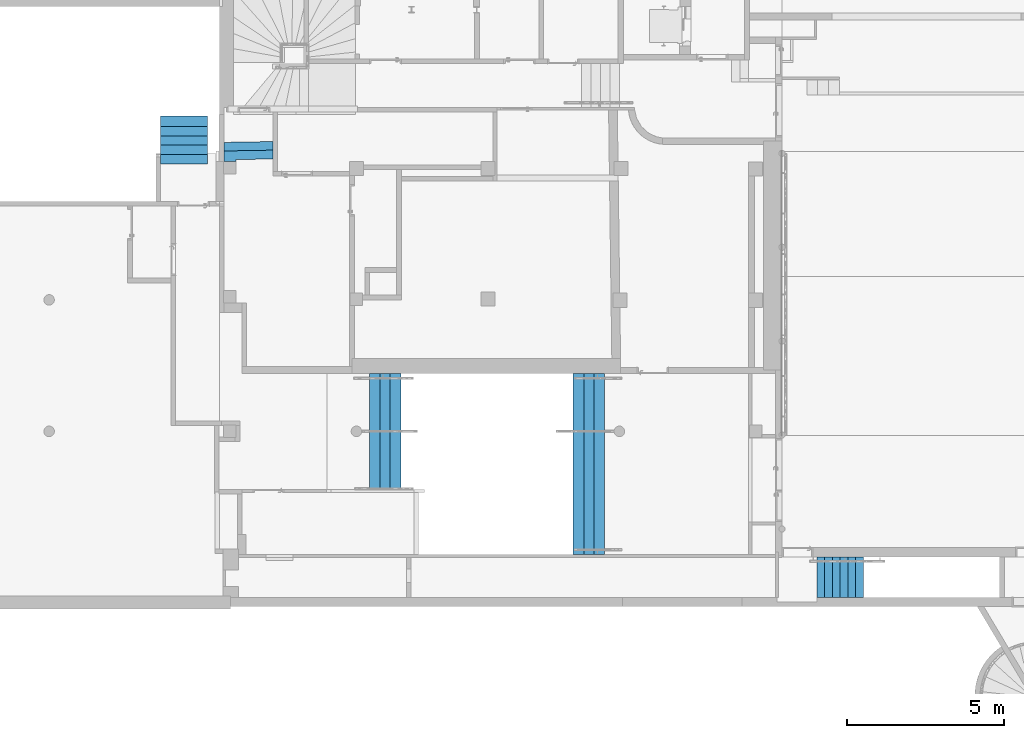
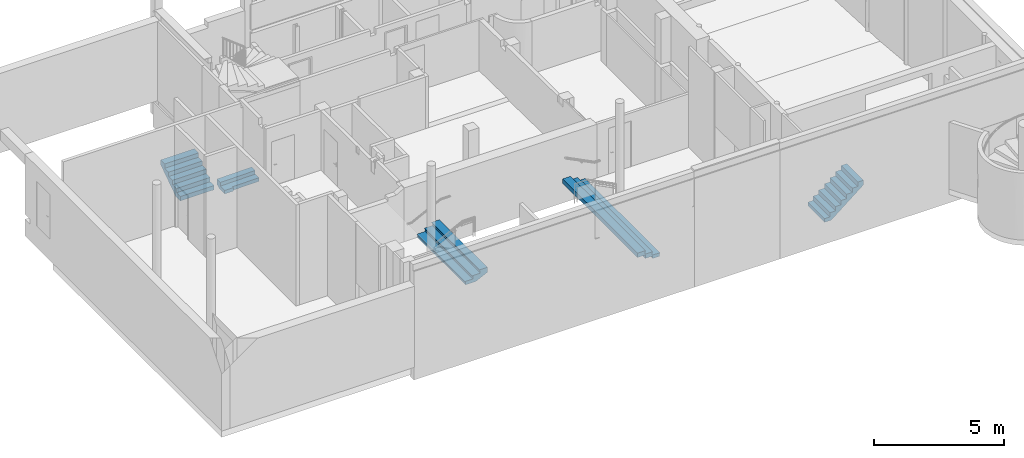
# One storey, part 33 of 39: 3 stair flights, 2 stairs, 3 elements without a shape of their own.
"""IFC4 building model written with IfcOpenShell, lengths in metres."""

from ifc_helpers import new_model, entity, si_unit, converted_unit, derived_unit, direction, frame, origin, place, context, subcontext, project, spatial, polygons, material, constituent, constituent_set, type_object, element, aggregate, save


model = new_model("IFC4")

# Units and contexts
model_context = context("Model", 3, precision=1e-05, world=origin(), true_north=direction((6.12303176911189e-17, 1.0)))
body_context = subcontext(model_context, "Body", "Model", "MODEL_VIEW")
ifc_project = project(units=[si_unit("LENGTHUNIT", "METRE"), si_unit("AREAUNIT", "SQUARE_METRE"), si_unit("VOLUMEUNIT", "CUBIC_METRE"), converted_unit("PLANEANGLEUNIT", "DEGREE", entity("IfcRatioMeasure", 0.0174532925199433), si_unit("PLANEANGLEUNIT", "RADIAN"), dimensions=[0, 0, 0, 0, 0, 0, 0]), si_unit("MASSUNIT", "GRAM", prefix="KILO"), derived_unit("MASSDENSITYUNIT", [(si_unit("MASSUNIT", "GRAM", prefix="KILO"), 1), (si_unit("LENGTHUNIT", "METRE"), -3)]), derived_unit("MOMENTOFINERTIAUNIT", [(si_unit("LENGTHUNIT", "METRE"), 4)]), si_unit("TIMEUNIT", "SECOND"), si_unit("FREQUENCYUNIT", "HERTZ"), si_unit("THERMODYNAMICTEMPERATUREUNIT", "DEGREE_CELSIUS"), derived_unit("THERMALTRANSMITTANCEUNIT", [(si_unit("MASSUNIT", "GRAM", prefix="KILO"), 1), (si_unit("THERMODYNAMICTEMPERATUREUNIT", "KELVIN"), -1), (si_unit("TIMEUNIT", "SECOND"), -3)]), derived_unit("VOLUMETRICFLOWRATEUNIT", [(si_unit("LENGTHUNIT", "METRE"), 3), (si_unit("TIMEUNIT", "SECOND"), -1)]), si_unit("ELECTRICCURRENTUNIT", "AMPERE"), si_unit("ELECTRICVOLTAGEUNIT", "VOLT"), si_unit("POWERUNIT", "WATT"), si_unit("FORCEUNIT", "NEWTON", prefix="KILO"), si_unit("ILLUMINANCEUNIT", "LUX"), si_unit("LUMINOUSFLUXUNIT", "LUMEN"), si_unit("LUMINOUSINTENSITYUNIT", "CANDELA"), derived_unit("USERDEFINED", [(si_unit("MASSUNIT", "GRAM", prefix="KILO"), -1), (si_unit("LENGTHUNIT", "METRE"), -2), (si_unit("TIMEUNIT", "SECOND"), 3), (si_unit("LUMINOUSFLUXUNIT", "LUMEN"), 1)]), derived_unit("LINEARVELOCITYUNIT", [(si_unit("LENGTHUNIT", "METRE"), 1), (si_unit("TIMEUNIT", "SECOND"), -1)]), si_unit("PRESSUREUNIT", "PASCAL"), derived_unit("USERDEFINED", [(si_unit("LENGTHUNIT", "METRE"), -2), (si_unit("MASSUNIT", "GRAM", prefix="KILO"), 1), (si_unit("TIMEUNIT", "SECOND"), -2)]), derived_unit("LINEARFORCEUNIT", [(si_unit("MASSUNIT", "GRAM", prefix="KILO"), 1), (si_unit("LENGTHUNIT", "METRE"), 1), (si_unit("TIMEUNIT", "SECOND"), -2), (si_unit("LENGTHUNIT", "METRE"), -1)]), derived_unit("PLANARFORCEUNIT", [(si_unit("MASSUNIT", "GRAM", prefix="KILO"), 1), (si_unit("LENGTHUNIT", "METRE"), 1), (si_unit("TIMEUNIT", "SECOND"), -2), (si_unit("LENGTHUNIT", "METRE"), -2)])], contexts=[model_context])

# Site, building, storey
site_placement = place(None, origin())
site = spatial("IfcSite", under=ifc_project, at=site_placement, Name="Default", CompositionType="ELEMENT")
building_placement = place(site_placement, origin())
building = spatial("IfcBuilding", under=site, at=building_placement, Name="HOTEL CONSULAIRE BOULOGNE SUR MER", CompositionType="ELEMENT")
storey_placement = place(building_placement, frame((0.0, 0.0, -5.02343668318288)))
storey = spatial("IfcBuildingStorey", under=building, at=storey_placement, Name="SS3", CompositionType="ELEMENT", Elevation=-5.02343668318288)

# Stair
stair_type_1 = type_object("IfcStairType", Name="Escalier coulé sur place:Monobloc 5", PredefinedType="STRAIGHT_RUN_STAIR")
stair_1_placement = place(storey_placement, frame((-7.48498856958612, -15.4746964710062, 0.0)))
element("IfcStair", 1, at=stair_1_placement, inside=storey, type_object=stair_type_1, Name="Escalier coulé sur place:Escalier", ObjectType="Escalier coulé sur place:Monobloc 5", PredefinedType="STRAIGHT_RUN_STAIR", context=body_context, shape_type="Tessellation", body=[
    polygons([(0.0, 0.300000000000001, 0.202681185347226), (0.0, 2.16573425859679e-15, 0.202681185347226), (1.50257659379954, 0.0, 0.202681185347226), (1.50257659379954, 0.299999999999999, 0.202681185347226), (0.0, 0.300000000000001, 0.0), (0.0, 2.16573425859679e-15, 0.0), (1.50257659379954, -2.16573425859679e-15, 0.0), (1.50257659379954, 0.299999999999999, 0.0), (0.0, 0.357259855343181, 0.0), (1.50257659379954, 0.357259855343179, 0.0), (1.08286712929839e-15, 0.599999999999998, 0.16399620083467), (0.0, 0.899999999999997, 0.366677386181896), (2.16573425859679e-15, 1.2, 0.569358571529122), (2.16573425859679e-15, 1.52549432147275, 0.78926382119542), (1.50257659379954, 1.52549432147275, 0.789263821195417), (1.50257659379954, 1.2, 0.569358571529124), (1.50257659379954, 0.899999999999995, 0.366677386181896), (1.50257659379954, 0.599999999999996, 0.16399620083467), (0.0, 0.6, 0.405362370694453), (0.0, 0.300000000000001, 0.405362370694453), (1.50257659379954, 0.299999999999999, 0.405362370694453), (1.50257659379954, 0.6, 0.405362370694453), (1.08286712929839e-15, 0.900000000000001, 0.608043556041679), (1.08286712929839e-15, 0.600000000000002, 0.608043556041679), (1.50257659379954, 0.6, 0.608043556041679), (1.50257659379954, 0.899999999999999, 0.608043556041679), (1.08286712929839e-15, 1.2, 0.810724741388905), (1.08286712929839e-15, 0.900000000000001, 0.810724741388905), (1.50257659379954, 0.899999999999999, 0.810724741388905), (1.50257659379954, 1.2, 0.810724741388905), (2.16573425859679e-15, 1.52549432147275, 1.01340592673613), (2.16573425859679e-15, 1.2, 1.01340592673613), (1.50257659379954, 1.2, 1.01340592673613), (1.50257659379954, 1.52549432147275, 1.01340592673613)], [[[4, 1, 2, 3]], [[22, 19, 20, 21]], [[26, 23, 24, 25]], [[30, 27, 28, 29]], [[34, 31, 32, 33]], [[2, 1, 20, 19, 24, 23, 28, 27, 32, 31, 14, 13, 12, 11, 9, 5, 6]], [[3, 2, 6, 7]], [[21, 20, 1, 4]], [[25, 24, 19, 22]], [[29, 28, 23, 26]], [[33, 32, 27, 30]], [[4, 3, 7, 8, 10, 18, 17, 16, 15, 34, 33, 30, 29, 26, 25, 22, 21]], [[5, 9, 10, 8, 7, 6]], [[13, 14, 15, 16, 17, 18, 10, 9, 11, 12]], [[31, 34, 15, 14]]], closed=True),
])

# Stair, stair flight
stair_type_2 = type_object("IfcStairType", PredefinedType="STRAIGHT_RUN_STAIR")
stair_2_placement = place(storey_placement, origin())
stair_2 = element("IfcStair", 2, at=stair_2_placement, inside=storey, type_object=stair_type_2, Name="Escalier coulé sur place:Escalier", PredefinedType="STRAIGHT_RUN_STAIR")
ifc_material_1 = material(Name="carrelage 30x30")
ifc_constituent_1 = constituent(ifc_material_1, Name="carrelage 30x30", Category="Matériaux")
ifc_material_2 = material(Name="Maçonnerie - Béton", Category="Béton")
ifc_constituent_2 = constituent(ifc_material_2, Name="Maçonnerie - Béton", Category="Matériaux")
ifc_constituent_set_1 = constituent_set(constituents=[ifc_constituent_1, ifc_constituent_2], Name="MaterialConstituentSet")
stair_flight_type_1 = type_object("IfcStairFlightType", Name="Volée monobloc:Profondeur de structure 180", PredefinedType="NOTDEFINED")
stair_flight_1_placement = place(stair_2_placement, frame((5.69117677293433, -27.9462737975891, 0.0)))
stair_flight_1 = element("IfcStairFlight", 3, at=stair_flight_1_placement, type_object=stair_flight_type_1, material=ifc_constituent_set_1, Name="Escalier coulé sur place:Escalier:446541 Run 1", ObjectType="Volée monobloc:Profondeur de structure 180", PredefinedType="NOTDEFINED", context=body_context, shape_type="Tessellation", body=[
    polygons([(0.643000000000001, 4.33146851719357e-15, 0.163351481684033), (1.0, 0.0, 0.163351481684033), (1.00000000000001, 5.77705474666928, 0.163351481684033), (0.643000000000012, 5.77705474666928, 0.163351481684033), (0.643000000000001, 0.0, 0.133351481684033), (0.643000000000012, 5.77705474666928, 0.133351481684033), (1.00000000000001, 5.77705474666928, 0.133351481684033), (1.0, 0.0, 0.133351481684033)], [[[4, 1, 2, 3]], [[7, 8, 5, 6]], [[2, 1, 5, 8]], [[3, 2, 8, 7]], [[4, 3, 7, 6]], [[1, 4, 6, 5]]], closed=True),
    polygons([(0.324000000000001, 4.33146851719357e-15, 0.326702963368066), (0.673000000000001, 4.33146851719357e-15, 0.326702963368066), (0.673000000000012, 5.77705474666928, 0.326702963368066), (0.324000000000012, 5.77705474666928, 0.326702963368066), (0.324000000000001, 4.33146851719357e-15, 0.296702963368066), (0.324000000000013, 5.77705474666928, 0.296702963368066), (0.673000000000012, 5.77705474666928, 0.296702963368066), (0.673000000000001, 4.33146851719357e-15, 0.296702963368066)], [[[4, 1, 2, 3]], [[7, 8, 5, 6]], [[2, 1, 5, 8]], [[4, 3, 7, 6]], [[1, 4, 6, 5]], [[3, 2, 8, 7]]], closed=True),
    polygons([(1.08286712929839e-15, 4.33146851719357e-15, 0.490054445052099), (0.354000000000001, 4.33146851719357e-15, 0.490054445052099), (0.354000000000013, 5.77705474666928, 0.490054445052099), (9.74580416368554e-15, 5.77705474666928, 0.490054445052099), (1.08286712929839e-15, 4.33146851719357e-15, 0.460054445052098), (1.08286712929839e-14, 5.77705474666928, 0.460054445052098), (0.354000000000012, 5.77705474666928, 0.460054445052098), (0.354000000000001, 4.33146851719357e-15, 0.460054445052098)], [[[4, 1, 2, 3]], [[7, 8, 5, 6]], [[2, 1, 5, 8]], [[4, 3, 7, 6]], [[1, 4, 6, 5]], [[3, 2, 8, 7]]], closed=True),
    polygons([(0.970000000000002, 0.0, 0.133351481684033), (0.970000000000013, 5.77705474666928, 0.133351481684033), (0.673000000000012, 5.77705474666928, 0.133351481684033), (0.643000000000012, 5.77705474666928, 0.133351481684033), (0.643000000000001, 4.33146851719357e-15, 0.133351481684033), (0.673000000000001, 4.33146851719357e-15, 0.133351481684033), (0.970000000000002, 4.33146851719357e-15, 0.0), (0.643000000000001, 4.33146851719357e-15, 0.116702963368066), (0.673000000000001, 4.33146851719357e-15, 0.116702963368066), (0.673000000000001, 4.33146851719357e-15, 0.0), (0.970000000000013, 5.77705474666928, 0.0), (0.673000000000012, 5.77705474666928, 0.0), (0.673000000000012, 5.77705474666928, 0.116702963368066), (0.643000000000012, 5.77705474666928, 0.116702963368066), (0.643000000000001, 4.33146851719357e-15, 0.296702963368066), (0.643000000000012, 5.77705474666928, 0.296702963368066), (0.354000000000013, 5.77705474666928, 0.296702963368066), (0.324000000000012, 5.77705474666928, 0.296702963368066), (0.324000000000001, 4.33146851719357e-15, 0.296702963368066), (0.354000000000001, 4.33146851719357e-15, 0.296702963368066), (0.324000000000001, 4.33146851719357e-15, 0.280054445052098), (0.354000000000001, 4.33146851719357e-15, 0.280054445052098), (0.354000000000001, 4.33146851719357e-15, 0.116702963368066), (0.354000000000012, 5.77705474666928, 0.116702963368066), (0.354000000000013, 5.77705474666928, 0.280054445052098), (0.324000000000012, 5.77705474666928, 0.280054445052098), (1.08286712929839e-15, 4.33146851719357e-15, 0.460054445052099), (0.324000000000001, 4.33146851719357e-15, 0.460054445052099), (0.324000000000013, 5.77705474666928, 0.460054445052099), (9.74580416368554e-15, 5.77705474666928, 0.460054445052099), (1.08286712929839e-15, 4.33146851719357e-15, 0.280054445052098), (9.74580416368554e-15, 5.77705474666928, 0.280054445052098)], [[[4, 5, 6, 1, 2, 3]], [[17, 18, 19, 20, 15, 16]], [[30, 27, 28, 29]], [[6, 5, 15, 20, 19, 28, 27, 31, 21, 22, 23, 8, 9, 10, 7, 1]], [[2, 1, 7, 11]], [[16, 15, 5, 4]], [[29, 28, 19, 18]], [[3, 2, 11, 12, 13, 14, 24, 25, 26, 32, 30, 29, 18, 17, 16, 4]], [[27, 30, 32, 31]], [[9, 13, 12, 10]], [[22, 25, 24, 23]], [[10, 12, 11, 7]], [[14, 13, 9, 8, 23, 24]], [[26, 25, 22, 21, 31, 32]]], closed=True),
])
aggregate(stair_2, [stair_flight_1])

stair_type_3 = type_object("IfcStairType", PredefinedType="STRAIGHT_RUN_STAIR")
stair_3_placement = place(storey_placement, origin())
stair_3 = element("IfcStair", 4, at=stair_3_placement, inside=storey, type_object=stair_type_3, Name="Escalier coulé sur place:Escalier", PredefinedType="STRAIGHT_RUN_STAIR")
ifc_constituent_3 = constituent(ifc_material_1, Name="carrelage 30x30", Category="Matériaux")
ifc_constituent_4 = constituent(ifc_material_2, Name="Maçonnerie - Béton", Category="Matériaux")
ifc_constituent_set_2 = constituent_set(constituents=[ifc_constituent_3, ifc_constituent_4], Name="MaterialConstituentSet")
stair_flight_type_2 = type_object("IfcStairFlightType", Name="Volée monobloc:Profondeur de structure 180", PredefinedType="NOTDEFINED")
stair_flight_2_placement = place(stair_3_placement, frame((-0.804575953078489, -25.8707560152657, 0.0)))
stair_flight_2 = element("IfcStairFlight", 5, at=stair_flight_2_placement, type_object=stair_flight_type_2, material=ifc_constituent_set_2, Name="Escalier coulé sur place:Escalier:447285 Run 1", ObjectType="Volée monobloc:Profondeur de structure 180", PredefinedType="NOTDEFINED", context=body_context, shape_type="Tessellation", body=[
    polygons([(0.357000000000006, 3.70153696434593, 0.163351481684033), (6.22648599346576e-15, 3.70153696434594, 0.163351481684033), (0.0, 4.33146851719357e-15, 0.163351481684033), (0.357, 4.33146851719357e-15, 0.163351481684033), (0.357000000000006, 3.70153696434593, 0.133351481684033), (0.357, 4.33146851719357e-15, 0.133351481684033), (0.0, 4.33146851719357e-15, 0.133351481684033), (6.22648599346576e-15, 3.70153696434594, 0.133351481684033)], [[[4, 1, 2, 3]], [[7, 8, 5, 6]], [[2, 1, 5, 8]], [[3, 2, 8, 7]], [[4, 3, 7, 6]], [[1, 4, 6, 5]]], closed=True),
    polygons([(0.683862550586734, 3.70153696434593, 0.326702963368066), (0.327000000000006, 3.70153696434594, 0.326702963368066), (0.327, 4.33146851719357e-15, 0.326702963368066), (0.683862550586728, 4.33146851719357e-15, 0.326702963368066), (0.683862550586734, 3.70153696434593, 0.296702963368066), (0.683862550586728, 4.33146851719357e-15, 0.296702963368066), (0.327, 4.33146851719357e-15, 0.296702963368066), (0.327000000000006, 3.70153696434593, 0.296702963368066)], [[[4, 1, 2, 3]], [[7, 8, 5, 6]], [[2, 1, 5, 8]], [[3, 2, 8, 7]], [[4, 3, 7, 6]], [[1, 4, 6, 5]]], closed=True),
    polygons([(1.00329753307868, 3.70153696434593, 0.490054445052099), (0.653862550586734, 3.70153696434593, 0.490054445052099), (0.653862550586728, 4.33146851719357e-15, 0.490054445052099), (1.00329753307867, 0.0, 0.490054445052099), (1.00329753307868, 3.70153696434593, 0.460054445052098), (1.00329753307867, 0.0, 0.460054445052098), (0.653862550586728, 0.0, 0.460054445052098), (0.653862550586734, 3.70153696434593, 0.460054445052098)], [[[4, 1, 2, 3]], [[7, 8, 5, 6]], [[2, 1, 5, 8]], [[3, 2, 8, 7]], [[4, 3, 7, 6]], [[1, 4, 6, 5]]], closed=True),
    polygons([(0.357000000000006, 3.70153696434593, 0.133351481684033), (0.0300000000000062, 3.70153696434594, 0.133351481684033), (0.0299999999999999, 4.33146851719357e-15, 0.133351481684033), (0.357, 4.33146851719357e-15, 0.133351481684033), (0.357000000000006, 3.70153696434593, 0.0), (0.0300000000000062, 3.70153696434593, 0.0), (0.0299999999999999, 4.33146851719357e-15, 0.0), (0.357, 4.33146851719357e-15, 0.0), (0.683862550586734, 3.70153696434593, 0.296702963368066), (0.357000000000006, 3.70153696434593, 0.296702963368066), (0.357, 4.33146851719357e-15, 0.296702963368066), (0.683862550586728, 4.33146851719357e-15, 0.296702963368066), (0.683862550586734, 3.70153696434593, 0.0954849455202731), (0.492759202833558, 3.70153696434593, 0.0), (0.492759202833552, 4.33146851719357e-15, 0.0), (0.683862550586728, 4.33146851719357e-15, 0.0954849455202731), (1.00329753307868, 3.70153696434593, 0.460054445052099), (0.683862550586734, 3.70153696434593, 0.460054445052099), (0.683862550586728, 4.33146851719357e-15, 0.460054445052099), (1.00329753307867, 0.0, 0.460054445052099), (1.00329753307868, 3.70153696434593, 0.255090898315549), (1.00329753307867, 4.33146851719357e-15, 0.25509089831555)], [[[4, 1, 2, 3]], [[12, 9, 10, 11]], [[20, 17, 18, 19]], [[2, 1, 10, 9, 18, 17, 21, 13, 14, 5, 6]], [[3, 2, 6, 7]], [[11, 10, 1, 4]], [[19, 18, 9, 12]], [[4, 3, 7, 8, 15, 16, 22, 20, 19, 12, 11]], [[17, 20, 22, 21]], [[7, 6, 5, 14, 15, 8]], [[16, 15, 14, 13, 21, 22]]], closed=True),
])
aggregate(stair_3, [stair_flight_2])

# Stair
stair_type_4 = type_object("IfcStairType", Name="Escalier coulé sur place:Monobloc 3", PredefinedType="STRAIGHT_RUN_STAIR")
stair_4_placement = place(storey_placement, frame((-5.46358384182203, -15.3952662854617, 0.0)))
element("IfcStair", 6, at=stair_4_placement, inside=storey, type_object=stair_type_4, Name="Escalier coulé sur place:Escalier", ObjectType="Escalier coulé sur place:Monobloc 3", PredefinedType="STRAIGHT_RUN_STAIR", context=body_context, shape_type="Tessellation", body=[
    polygons([(0.0015952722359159, 0.335485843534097, -0.259999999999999), (0.0015952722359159, 2.16573425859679e-15, -0.259999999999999), (0.388075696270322, 2.16573425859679e-15, -0.259999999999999), (0.388075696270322, 0.0605590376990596, -0.259999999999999), (1.57042490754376, 0.0811970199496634, -0.259999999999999), (1.57042490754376, 0.3628698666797, -0.259999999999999), (0.0015952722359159, 0.335485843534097, -0.43), (0.0015952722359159, 2.16573425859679e-15, -0.43), (0.388075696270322, 2.16573425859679e-15, -0.43), (0.388075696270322, 0.0605590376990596, -0.43), (1.57042490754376, 0.0811970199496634, -0.43), (1.57042490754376, 0.362869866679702, -0.43), (0.00159527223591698, 0.610442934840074, -0.0900000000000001), (0.00159527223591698, 0.335485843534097, -0.0900000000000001), (1.57042490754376, 0.362869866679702, -0.0900000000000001), (1.57042490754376, 0.637826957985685, -0.0900000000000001), (0.00159527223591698, 0.610442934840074, -0.322973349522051), (0.00159527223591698, 0.553571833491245, -0.349725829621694), (0.00159527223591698, 0.496703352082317, -0.376482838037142), (0.00159527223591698, 0.439835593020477, -0.403241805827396), (0.00159527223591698, 0.382967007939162, -0.43), (1.57042490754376, 0.399812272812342, -0.43), (1.57042490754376, 0.459312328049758, -0.394016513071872), (1.57042490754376, 0.518812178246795, -0.358033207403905), (1.57042490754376, 0.578315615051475, -0.322056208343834), (1.57042490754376, 0.637826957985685, -0.286091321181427), (1.39613616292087, 0.634784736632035, -0.291194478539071), (1.22183855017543, 0.63174236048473, -0.295994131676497), (1.04753372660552, 0.628699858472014, -0.300516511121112), (0.873222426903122, 0.625657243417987, -0.304784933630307), (0.698905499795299, 0.622614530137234, -0.308820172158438), (0.52458378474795, 0.619571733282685, -0.312640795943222), (0.350257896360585, 0.616528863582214, -0.316263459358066), (0.175928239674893, 0.61348592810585, -0.31970314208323), (0.175909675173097, 0.384838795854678, -0.43), (0.350224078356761, 0.386710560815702, -0.43), (0.52453848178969, 0.388582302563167, -0.43), (0.698852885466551, 0.390454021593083, -0.43), (0.873167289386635, 0.392325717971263, -0.43), (1.04748169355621, 0.394197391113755, -0.43), (1.22179609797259, 0.396069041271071, -0.43), (1.39611050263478, 0.39794066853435, -0.43)], [[[5, 6, 1, 2, 3, 4]], [[16, 13, 14, 15]], [[2, 1, 14, 13, 17, 18, 19, 20, 21, 7, 8]], [[4, 3, 9, 10]], [[6, 5, 11, 12, 22, 23, 24, 25, 26, 16, 15]], [[15, 14, 1, 6]], [[5, 4, 10, 11]], [[16, 26, 27, 28, 29, 30, 31, 32, 33, 34, 17, 13]], [[7, 21, 35, 36, 37, 38, 39, 40, 41, 42, 22, 12, 11, 10, 9, 8]], [[3, 2, 8, 9]], [[35, 21, 20, 36]], [[36, 19, 38, 37]], [[19, 36, 20]], [[40, 24, 23]], [[31, 39, 38]], [[42, 41, 40, 23, 22]], [[40, 39, 24]], [[32, 38, 19]], [[18, 17, 34]], [[18, 34, 33]], [[31, 38, 32]], [[32, 19, 33]], [[39, 31, 24]], [[25, 24, 29]], [[30, 24, 31]], [[29, 24, 30]], [[29, 28, 25]], [[27, 26, 25]], [[28, 27, 25]], [[19, 18, 33]]], closed=True),
])

# Stair, stair flight
stair_type_5 = type_object("IfcStairType", PredefinedType="STRAIGHT_RUN_STAIR")
stair_5_placement = place(storey_placement, origin())
stair_5 = element("IfcStair", 7, at=stair_5_placement, inside=storey, type_object=stair_type_5, Name="Escalier coulé sur place:Escalier", PredefinedType="STRAIGHT_RUN_STAIR")
stair_flight_type_3 = type_object("IfcStairFlightType", Name="Volée monobloc:Profondeur de structure 170 mm", PredefinedType="NOTDEFINED")
stair_flight_3_placement = place(stair_5_placement, frame((13.2390604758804, -29.3180671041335, 0.0)))
stair_flight_3 = element("IfcStairFlight", 8, at=stair_flight_3_placement, type_object=stair_flight_type_3, material=ifc_material_2, Name="Escalier coulé sur place:Escalier:457968 Run 1", ObjectType="Volée monobloc:Profondeur de structure 170 mm", PredefinedType="NOTDEFINED", context=body_context, shape_type="Tessellation", body=[
    polygons([(0.238, 1.29424399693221, 0.30125), (0.0, 1.29424399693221, 0.30125), (0.0, 8.66293703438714e-15, 0.30125), (0.238, 8.66293703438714e-15, 0.30125), (0.238, 1.29424399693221, 0.131249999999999), (0.0, 1.29424399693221, 0.131249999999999), (0.0, 8.66293703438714e-15, 0.131249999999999), (0.238, 8.66293703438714e-15, 0.131249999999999), (0.238, 1.29424399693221, 0.502499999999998), (0.238, 8.66293703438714e-15, 0.502499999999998), (0.298209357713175, 8.66293703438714e-15, 0.502499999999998), (0.483000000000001, 8.66293703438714e-15, 0.502499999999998), (0.483000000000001, 1.2942439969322, 0.502499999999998), (0.298209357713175, 1.29424399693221, 0.502499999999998), (0.483000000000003, 1.2942439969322, 0.280919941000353), (0.298209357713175, 1.2942439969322, 0.131249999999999), (0.29820935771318, 8.66293703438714e-15, 0.13125), (0.483000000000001, 8.66293703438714e-15, 0.280919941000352), (0.734, 1.2942439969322, 0.703749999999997), (0.483000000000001, 1.29424399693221, 0.703749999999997), (0.483000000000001, 8.66293703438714e-15, 0.703749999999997), (0.734, 4.33146851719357e-15, 0.703749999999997), (0.734000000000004, 1.2942439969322, 0.484215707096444), (0.734, 8.66293703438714e-15, 0.484215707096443), (0.982, 1.2942439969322, 0.904999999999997), (0.734, 1.2942439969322, 0.904999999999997), (0.734, 4.33146851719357e-15, 0.904999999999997), (0.982, 4.33146851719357e-15, 0.904999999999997), (0.982000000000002, 1.2942439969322, 0.685081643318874), (0.982, 4.33146851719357e-15, 0.685081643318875), (1.23141845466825, 1.2942439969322, 1.10625), (0.982, 1.2942439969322, 1.10625), (0.982, 4.33146851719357e-15, 1.10625), (1.23141845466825, 4.33146851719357e-15, 1.10625), (1.23141845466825, 1.2942439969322, 0.887096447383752), (1.23141845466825, 4.33146851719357e-15, 0.887096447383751), (1.48084511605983, 1.2942439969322, 1.30749999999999), (1.23141845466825, 1.2942439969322, 1.30749999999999), (1.23141845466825, 4.33146851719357e-15, 1.30749999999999), (1.48084511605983, 4.33146851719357e-15, 1.30749999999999), (1.48084511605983, 1.2942439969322, 1.08911789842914), (1.48084511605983, 4.33146851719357e-15, 1.08911789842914), (1.72884511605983, 1.2942439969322, 1.28998383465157), (1.72884511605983, 0.0, 1.28998383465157), (1.72884511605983, 1.2942439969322, 1.50874999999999), (1.48084511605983, 1.2942439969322, 1.50874999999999), (1.48084511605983, 4.33146851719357e-15, 1.50874999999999), (1.72884511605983, 0.0, 1.50874999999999)], [[[4, 1, 2, 3]], [[12, 13, 14, 9, 10, 11]], [[22, 19, 20, 21]], [[28, 25, 26, 27]], [[34, 31, 32, 33]], [[40, 37, 38, 39]], [[48, 45, 46, 47]], [[2, 1, 9, 14, 13, 20, 19, 26, 25, 32, 31, 38, 37, 46, 45, 43, 41, 35, 29, 23, 15, 16, 5, 6]], [[3, 2, 6, 7]], [[10, 9, 1, 4]], [[21, 20, 13, 12]], [[27, 26, 19, 22]], [[33, 32, 25, 28]], [[39, 38, 31, 34]], [[47, 46, 37, 40]], [[4, 3, 7, 8, 17, 18, 24, 30, 36, 42, 44, 48, 47, 40, 39, 34, 33, 28, 27, 22, 21, 12, 11, 10]], [[7, 6, 5, 16, 17, 8]], [[18, 17, 16, 15, 23, 29, 35, 41, 43, 44, 42, 36, 30, 24]], [[45, 48, 44, 43]]], closed=True),
])
aggregate(stair_5, [stair_flight_3])

save(model, "model.ifc")
